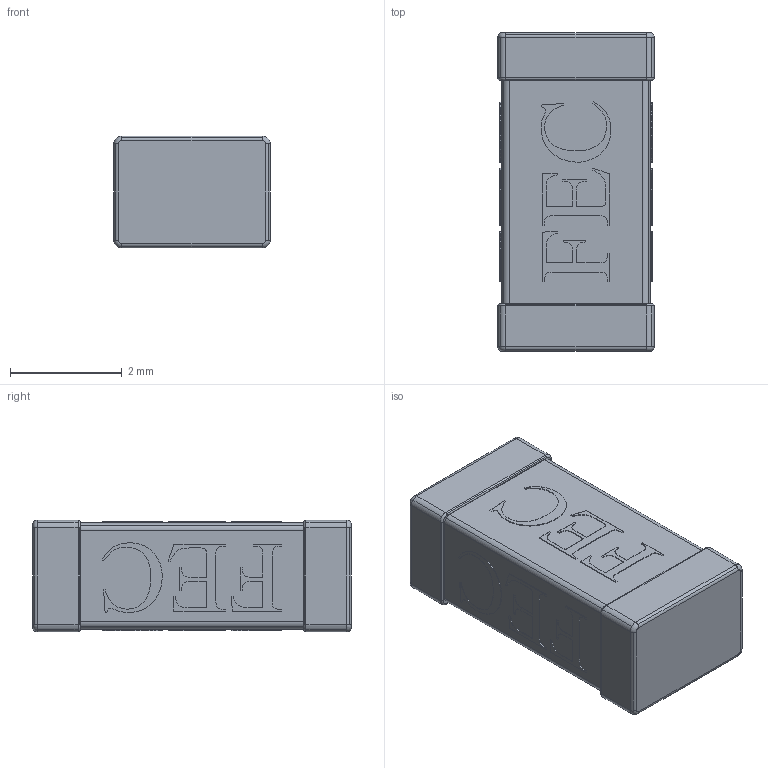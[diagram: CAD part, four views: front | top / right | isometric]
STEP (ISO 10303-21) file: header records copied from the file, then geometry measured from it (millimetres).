
FILE_DESCRIPTION(('STEP AP214'),'1');
FILE_NAME('tmp0.step','2023-08-10T00:41:23',(' '),(' '),'Spatial InterOp 3D',' ',' ');
FILE_SCHEMA(('AUTOMOTIVE_DESIGN { 1 0 10303 214 1 1 1 1 }'));
Length unit declared in the file: millimetre
Products named in the file (1): 1
Bounding box: 2.8 x 5.7 x 2 mm (x, y, z)
Volume: 29.7 mm3; surface area: 92.2 mm2
Topology: 15 solids, 15 shells, 1102 faces, 3184 edges, 2112 vertices
Faces by surface type: plane 1030, cylinder 56, torus 16
Entity records: 35714 total; most frequent: CARTESIAN_POINT 6413, ORIENTED_EDGE 6368, DIRECTION 5546, EDGE_CURVE 3184, LINE 3056, VECTOR 3056, VERTEX_POINT 2112, AXIS2_PLACEMENT_3D 1245
